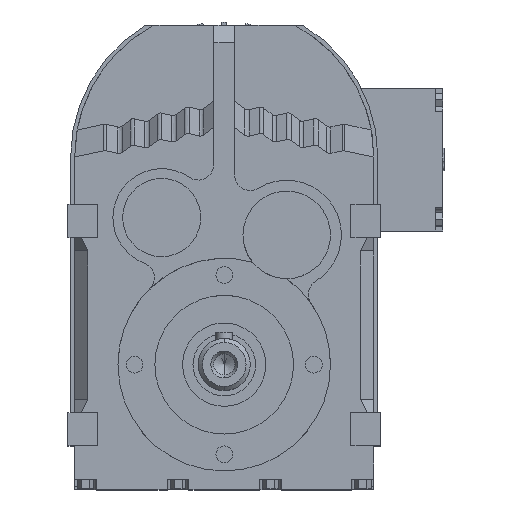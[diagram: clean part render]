
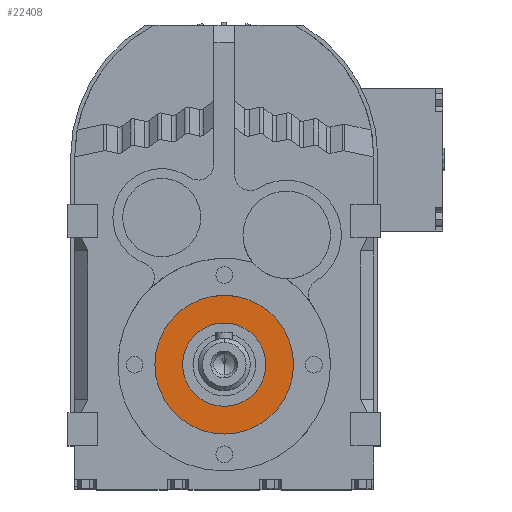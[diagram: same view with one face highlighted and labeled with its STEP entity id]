
A CAD part, top view. The second image highlights one B-rep face of the part: STEP entity #22408.
In plain terms, the highlighted planar face has unit normal (0, 0, 1).
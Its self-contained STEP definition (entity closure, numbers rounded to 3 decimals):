
#15444 = CYLINDRICAL_SURFACE('',#15445,33.3);
#15445 = AXIS2_PLACEMENT_3D('',#15446,#15447,#15448);
#15446 = CARTESIAN_POINT('',(0.,-98.7,110.123));
#15447 = DIRECTION('',(0.,0.,1.));
#15448 = DIRECTION('',(1.,0.,0.));
#15470 = CYLINDRICAL_SURFACE('',#15471,33.3);
#15471 = AXIS2_PLACEMENT_3D('',#15472,#15473,#15474);
#15472 = CARTESIAN_POINT('',(0.,-98.7,110.123));
#15473 = DIRECTION('',(0.,0.,1.));
#15474 = DIRECTION('',(1.,0.,0.));
#20356 = VERTEX_POINT('',#20357);
#20357 = CARTESIAN_POINT('',(-33.3,-98.7,91.5));
#20378 = VERTEX_POINT('',#20379);
#20379 = CARTESIAN_POINT('',(33.3,-98.7,91.5));
#20398 = EDGE_CURVE('',#20378,#20356,#20399,.T.);
#20399 = SURFACE_CURVE('',#20400,(#20405,#20411),.PCURVE_S1.);
#20400 = CIRCLE('',#20401,33.3);
#20401 = AXIS2_PLACEMENT_3D('',#20402,#20403,#20404);
#20402 = CARTESIAN_POINT('',(0.,-98.7,91.5));
#20403 = DIRECTION('',(0.,0.,1.));
#20404 = DIRECTION('',(1.,0.,0.));
#20405 = PCURVE('',#15444,#20406);
#20406 = DEFINITIONAL_REPRESENTATION('',(#20407),#20410);
#20407 = B_SPLINE_CURVE_WITH_KNOTS('',1,(#20408,#20409),.UNSPECIFIED.,
  .F.,.F.,(2,2),(0.,3.142),.PIECEWISE_BEZIER_KNOTS.);
#20408 = CARTESIAN_POINT('',(0.,-18.623));
#20409 = CARTESIAN_POINT('',(3.142,-18.623));
#20410 = ( GEOMETRIC_REPRESENTATION_CONTEXT(2) 
PARAMETRIC_REPRESENTATION_CONTEXT() REPRESENTATION_CONTEXT('2D SPACE',''
  ) );
#20411 = PCURVE('',#20412,#20417);
#20412 = PLANE('',#20413);
#20413 = AXIS2_PLACEMENT_3D('',#20414,#20415,#20416);
#20414 = CARTESIAN_POINT('',(0.,-65.4,91.5));
#20415 = DIRECTION('',(0.,0.,1.));
#20416 = DIRECTION('',(1.,0.,0.));
#20417 = DEFINITIONAL_REPRESENTATION('',(#20418),#20422);
#20418 = CIRCLE('',#20419,33.3);
#20419 = AXIS2_PLACEMENT_2D('',#20420,#20421);
#20420 = CARTESIAN_POINT('',(0.,-33.3));
#20421 = DIRECTION('',(1.,0.));
#20422 = ( GEOMETRIC_REPRESENTATION_CONTEXT(2) 
PARAMETRIC_REPRESENTATION_CONTEXT() REPRESENTATION_CONTEXT('2D SPACE',''
  ) );
#20796 = EDGE_CURVE('',#20356,#20378,#20797,.T.);
#20797 = SURFACE_CURVE('',#20798,(#20803,#20809),.PCURVE_S1.);
#20798 = CIRCLE('',#20799,33.3);
#20799 = AXIS2_PLACEMENT_3D('',#20800,#20801,#20802);
#20800 = CARTESIAN_POINT('',(0.,-98.7,91.5));
#20801 = DIRECTION('',(0.,0.,1.));
#20802 = DIRECTION('',(1.,0.,0.));
#20803 = PCURVE('',#15470,#20804);
#20804 = DEFINITIONAL_REPRESENTATION('',(#20805),#20808);
#20805 = B_SPLINE_CURVE_WITH_KNOTS('',1,(#20806,#20807),.UNSPECIFIED.,
  .F.,.F.,(2,2),(3.142,6.283),.PIECEWISE_BEZIER_KNOTS.);
#20806 = CARTESIAN_POINT('',(3.142,-18.623));
#20807 = CARTESIAN_POINT('',(6.283,-18.623));
#20808 = ( GEOMETRIC_REPRESENTATION_CONTEXT(2) 
PARAMETRIC_REPRESENTATION_CONTEXT() REPRESENTATION_CONTEXT('2D SPACE',''
  ) );
#20809 = PCURVE('',#20412,#20810);
#20810 = DEFINITIONAL_REPRESENTATION('',(#20811),#20815);
#20811 = CIRCLE('',#20812,33.3);
#20812 = AXIS2_PLACEMENT_2D('',#20813,#20814);
#20813 = CARTESIAN_POINT('',(0.,-33.3));
#20814 = DIRECTION('',(1.,0.));
#20815 = ( GEOMETRIC_REPRESENTATION_CONTEXT(2) 
PARAMETRIC_REPRESENTATION_CONTEXT() REPRESENTATION_CONTEXT('2D SPACE',''
  ) );
#22408 = ADVANCED_FACE('',(#22409,#22413),#20412,.T.);
#22409 = FACE_BOUND('',#22410,.T.);
#22410 = EDGE_LOOP('',(#22411,#22412));
#22411 = ORIENTED_EDGE('',*,*,#20398,.T.);
#22412 = ORIENTED_EDGE('',*,*,#20796,.T.);
#22413 = FACE_BOUND('',#22414,.T.);
#22414 = EDGE_LOOP('',(#22415,#22445));
#22415 = ORIENTED_EDGE('',*,*,#22416,.F.);
#22416 = EDGE_CURVE('',#22417,#22419,#22421,.T.);
#22417 = VERTEX_POINT('',#22418);
#22418 = CARTESIAN_POINT('',(20.,-98.7,91.5));
#22419 = VERTEX_POINT('',#22420);
#22420 = CARTESIAN_POINT('',(-20.,-98.7,91.5));
#22421 = SURFACE_CURVE('',#22422,(#22427,#22434),.PCURVE_S1.);
#22422 = CIRCLE('',#22423,20.);
#22423 = AXIS2_PLACEMENT_3D('',#22424,#22425,#22426);
#22424 = CARTESIAN_POINT('',(0.,-98.7,91.5));
#22425 = DIRECTION('',(0.,0.,1.));
#22426 = DIRECTION('',(1.,0.,0.));
#22427 = PCURVE('',#20412,#22428);
#22428 = DEFINITIONAL_REPRESENTATION('',(#22429),#22433);
#22429 = CIRCLE('',#22430,20.);
#22430 = AXIS2_PLACEMENT_2D('',#22431,#22432);
#22431 = CARTESIAN_POINT('',(0.,-33.3));
#22432 = DIRECTION('',(1.,0.));
#22433 = ( GEOMETRIC_REPRESENTATION_CONTEXT(2) 
PARAMETRIC_REPRESENTATION_CONTEXT() REPRESENTATION_CONTEXT('2D SPACE',''
  ) );
#22434 = PCURVE('',#22435,#22440);
#22435 = CYLINDRICAL_SURFACE('',#22436,20.);
#22436 = AXIS2_PLACEMENT_3D('',#22437,#22438,#22439);
#22437 = CARTESIAN_POINT('',(0.,-98.7,110.123));
#22438 = DIRECTION('',(0.,0.,1.));
#22439 = DIRECTION('',(1.,0.,0.));
#22440 = DEFINITIONAL_REPRESENTATION('',(#22441),#22444);
#22441 = B_SPLINE_CURVE_WITH_KNOTS('',1,(#22442,#22443),.UNSPECIFIED.,
  .F.,.F.,(2,2),(0.,3.142),.PIECEWISE_BEZIER_KNOTS.);
#22442 = CARTESIAN_POINT('',(0.,-18.623));
#22443 = CARTESIAN_POINT('',(3.142,-18.623));
#22444 = ( GEOMETRIC_REPRESENTATION_CONTEXT(2) 
PARAMETRIC_REPRESENTATION_CONTEXT() REPRESENTATION_CONTEXT('2D SPACE',''
  ) );
#22445 = ORIENTED_EDGE('',*,*,#22446,.F.);
#22446 = EDGE_CURVE('',#22419,#22417,#22447,.T.);
#22447 = SURFACE_CURVE('',#22448,(#22453,#22460),.PCURVE_S1.);
#22448 = CIRCLE('',#22449,20.);
#22449 = AXIS2_PLACEMENT_3D('',#22450,#22451,#22452);
#22450 = CARTESIAN_POINT('',(0.,-98.7,91.5));
#22451 = DIRECTION('',(0.,0.,1.));
#22452 = DIRECTION('',(1.,0.,0.));
#22453 = PCURVE('',#20412,#22454);
#22454 = DEFINITIONAL_REPRESENTATION('',(#22455),#22459);
#22455 = CIRCLE('',#22456,20.);
#22456 = AXIS2_PLACEMENT_2D('',#22457,#22458);
#22457 = CARTESIAN_POINT('',(0.,-33.3));
#22458 = DIRECTION('',(1.,0.));
#22459 = ( GEOMETRIC_REPRESENTATION_CONTEXT(2) 
PARAMETRIC_REPRESENTATION_CONTEXT() REPRESENTATION_CONTEXT('2D SPACE',''
  ) );
#22460 = PCURVE('',#22461,#22466);
#22461 = CYLINDRICAL_SURFACE('',#22462,20.);
#22462 = AXIS2_PLACEMENT_3D('',#22463,#22464,#22465);
#22463 = CARTESIAN_POINT('',(0.,-98.7,110.123));
#22464 = DIRECTION('',(0.,0.,1.));
#22465 = DIRECTION('',(1.,0.,0.));
#22466 = DEFINITIONAL_REPRESENTATION('',(#22467),#22470);
#22467 = B_SPLINE_CURVE_WITH_KNOTS('',1,(#22468,#22469),.UNSPECIFIED.,
  .F.,.F.,(2,2),(3.142,6.283),.PIECEWISE_BEZIER_KNOTS.);
#22468 = CARTESIAN_POINT('',(3.142,-18.623));
#22469 = CARTESIAN_POINT('',(6.283,-18.623));
#22470 = ( GEOMETRIC_REPRESENTATION_CONTEXT(2) 
PARAMETRIC_REPRESENTATION_CONTEXT() REPRESENTATION_CONTEXT('2D SPACE',''
  ) );
